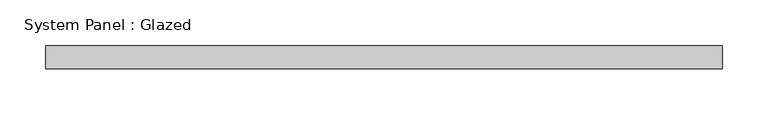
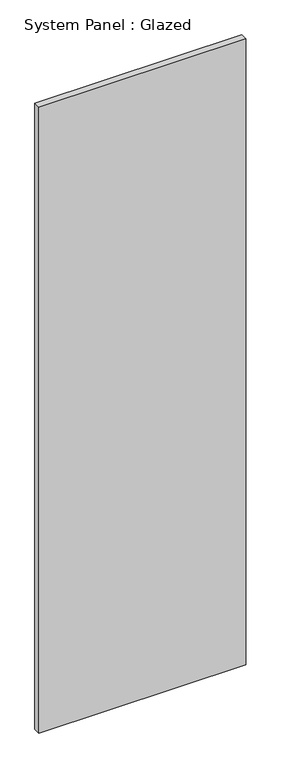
"""IFC4 building model written with IfcOpenShell, lengths in millimetres: plate geometry, System Panel : Glazed."""

from ifc_helpers import new_model, si_unit, origin, origin_with_axes, place, context, project, spatial, polyline, outline, extrude, source, transform, mapped, element, save


def system_panel_glazed_9a20f630(model_context):
    return source(origin(), model_context, "Body", "SweptSolid", [
        extrude(outline(polyline([(371.2456567, 19.05), (-371.2456567, 19.05), (-371.2456567, 44.45), (371.2456567, 44.45), (371.2456567, 19.05)])), origin_with_axes(), (0.0, 0.0, 1.0), 2374.9),
    ])


if __name__ == "__main__":
    model = new_model("IFC4")
    model_context = context("Model", 3, world=origin())
    ifc_project = project(units=[si_unit("LENGTHUNIT", "METRE", prefix="MILLI")], contexts=[model_context])
    site = spatial("IfcSite", under=ifc_project)
    building = spatial("IfcBuilding", under=site)
    placement = place(None, origin())
    system_panel_glazed_shape = system_panel_glazed_9a20f630(model_context)
    element("IfcPlate", 1, ObjectType="System Panel : Glazed", at=placement, inside=building, context=model_context, shape_type="MappedRepresentation", body=[
        mapped(system_panel_glazed_shape, transform((0.0, 0.0, 0.0), x_axis=(1.0, 0.0, 0.0), y_axis=(0.0, 1.0, 0.0), z_axis=(0.0, 0.0, 1.0))),
    ])
    save(model, "model.ifc")
